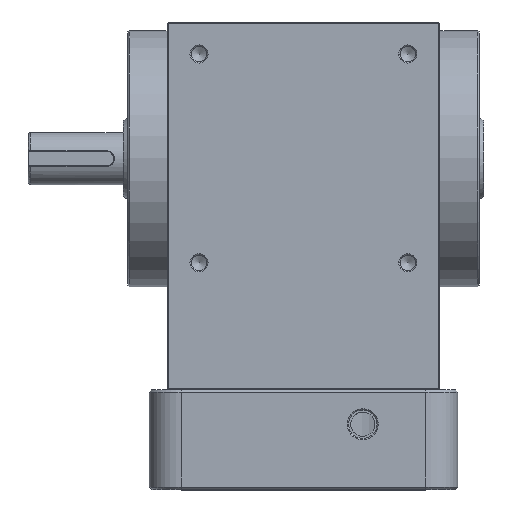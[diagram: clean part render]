
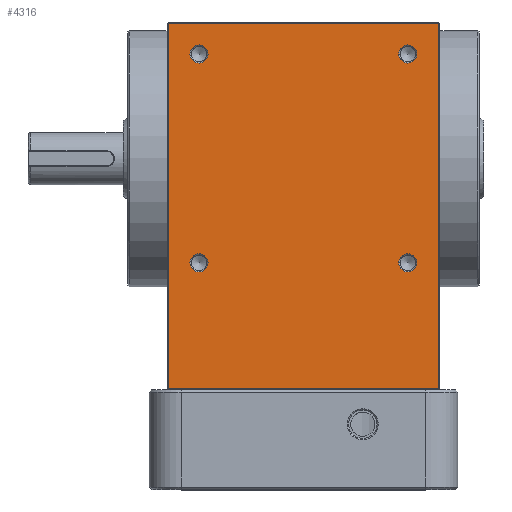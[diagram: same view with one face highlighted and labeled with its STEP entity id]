
A CAD part, top view. The second image highlights one B-rep face of the part: STEP entity #4316.
In plain terms, the highlighted planar face has unit normal (0, 0, 1).
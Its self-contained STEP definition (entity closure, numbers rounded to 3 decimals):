
#3138=CARTESIAN_POINT('',(57.,-97.,57.5));
#3139=VERTEX_POINT('',#3138);
#3146=CARTESIAN_POINT('',(-57.,-97.,57.5));
#3147=VERTEX_POINT('',#3146);
#3148=CARTESIAN_POINT('',(57.,-97.,57.5));
#3149=DIRECTION('',(-1.0,0.0,0.0));
#3150=VECTOR('',#3149,114.);
#3151=LINE('',#3148,#3150);
#3152=EDGE_CURVE('',#3139,#3147,#3151,.T.);
#3258=CARTESIAN_POINT('',(-57.,57.,57.5));
#3259=VERTEX_POINT('',#3258);
#3260=CARTESIAN_POINT('',(-57.,57.,57.5));
#3261=DIRECTION('',(0.0,-1.0,0.0));
#3262=VECTOR('',#3261,154.0);
#3263=LINE('',#3260,#3262);
#3264=EDGE_CURVE('',#3259,#3147,#3263,.T.);
#3290=CARTESIAN_POINT('',(57.,57.,57.5));
#3291=VERTEX_POINT('',#3290);
#3298=CARTESIAN_POINT('',(57.,57.,57.5));
#3299=DIRECTION('',(0.0,-1.0,0.0));
#3300=VECTOR('',#3299,154.0);
#3301=LINE('',#3298,#3300);
#3302=EDGE_CURVE('',#3291,#3139,#3301,.T.);
#3452=CARTESIAN_POINT('',(-57.,57.,57.5));
#3453=DIRECTION('',(1.0,0.0,0.0));
#3454=VECTOR('',#3453,114.0);
#3455=LINE('',#3452,#3454);
#3456=EDGE_CURVE('',#3259,#3291,#3455,.T.);
#4257=CARTESIAN_POINT('',(40.177,-44.,57.5));
#4258=VERTEX_POINT('',#4257);
#4259=CARTESIAN_POINT('',(44.0,-44.,57.5));
#4260=DIRECTION('',(0.0,0.0,1.0));
#4261=DIRECTION('',(1.0,0.0,0.0));
#4262=AXIS2_PLACEMENT_3D('',#4259,#4260,#4261);
#4263=CIRCLE('',#4262,3.823);
#4264=EDGE_CURVE('',#4258,#4258,#4263,.T.);
#4269=CARTESIAN_POINT('',(0.,0.,57.5));
#4270=DIRECTION('',(0.0,0.0,1.0));
#4271=DIRECTION('',(1.0,0.0,0.0));
#4272=AXIS2_PLACEMENT_3D('',#4269,#4270,#4271);
#4273=PLANE('',#4272);
#4274=ORIENTED_EDGE('',*,*,#3152,.F.);
#4275=ORIENTED_EDGE('',*,*,#3302,.F.);
#4276=ORIENTED_EDGE('',*,*,#3456,.F.);
#4277=ORIENTED_EDGE('',*,*,#3264,.T.);
#4278=EDGE_LOOP('',(#4274,#4275,#4276,#4277));
#4279=FACE_OUTER_BOUND('',#4278,.T.);
#4280=CARTESIAN_POINT('',(40.177,44.,57.5));
#4281=VERTEX_POINT('',#4280);
#4282=CARTESIAN_POINT('',(44.,44.,57.5));
#4283=DIRECTION('',(0.0,0.0,1.0));
#4284=DIRECTION('',(1.0,0.0,0.0));
#4285=AXIS2_PLACEMENT_3D('',#4282,#4283,#4284);
#4286=CIRCLE('',#4285,3.823);
#4287=EDGE_CURVE('',#4281,#4281,#4286,.T.);
#4288=ORIENTED_EDGE('',*,*,#4287,.F.);
#4289=EDGE_LOOP('',(#4288));
#4290=FACE_BOUND('',#4289,.T.);
#4291=CARTESIAN_POINT('',(-40.177,44.,57.5));
#4292=VERTEX_POINT('',#4291);
#4293=CARTESIAN_POINT('',(-44.0,44.,57.5));
#4294=DIRECTION('',(0.0,0.0,1.0));
#4295=DIRECTION('',(-1.0,0.0,0.0));
#4296=AXIS2_PLACEMENT_3D('',#4293,#4294,#4295);
#4297=CIRCLE('',#4296,3.823);
#4298=EDGE_CURVE('',#4292,#4292,#4297,.T.);
#4299=ORIENTED_EDGE('',*,*,#4298,.F.);
#4300=EDGE_LOOP('',(#4299));
#4301=FACE_BOUND('',#4300,.T.);
#4302=CARTESIAN_POINT('',(-40.177,-44.,57.5));
#4303=VERTEX_POINT('',#4302);
#4304=CARTESIAN_POINT('',(-44.0,-44.,57.5));
#4305=DIRECTION('',(0.0,0.0,1.0));
#4306=DIRECTION('',(-1.0,0.0,0.0));
#4307=AXIS2_PLACEMENT_3D('',#4304,#4305,#4306);
#4308=CIRCLE('',#4307,3.823);
#4309=EDGE_CURVE('',#4303,#4303,#4308,.T.);
#4310=ORIENTED_EDGE('',*,*,#4309,.F.);
#4311=EDGE_LOOP('',(#4310));
#4312=FACE_BOUND('',#4311,.T.);
#4313=ORIENTED_EDGE('',*,*,#4264,.F.);
#4314=EDGE_LOOP('',(#4313));
#4315=FACE_BOUND('',#4314,.T.);
#4316=ADVANCED_FACE('',(#4279,#4290,#4301,#4312,#4315),#4273,.T.);
